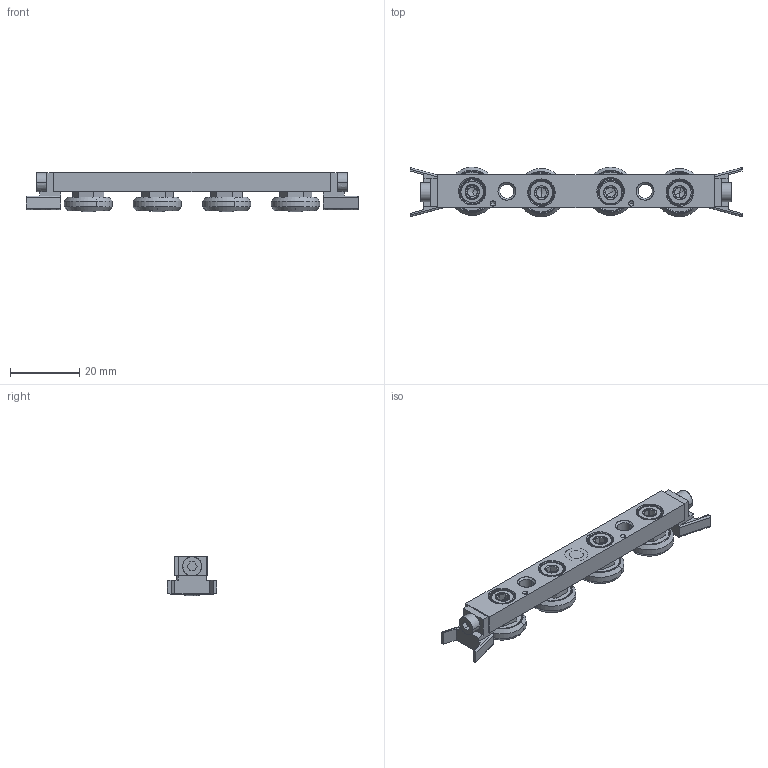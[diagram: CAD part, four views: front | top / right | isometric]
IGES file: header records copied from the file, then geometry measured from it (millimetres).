
Start section: SolidWorks IGES file using analytic representation for surfaces
Global section: file name: E:\J-00018 - L1918-L1963 LCompact Rail\L1918_v2\L1918.CSW18_v2\L1918.CSW18_IGES\Default.igs; native system: SolidWorks 2017; preprocessor: SolidWorks 2017; author: liam_; date: 190629.230037; units: millimetre
Bounding box: 96 x 14.33 x 11.54 mm (x, y, z)
Surface area: 7771.2 mm2 (no closed solid volume)
Topology: 0 solids, 0 shells, 478 faces, 5980 edges, 5950 vertices
Faces by surface type: bspline 276, revolution 202
